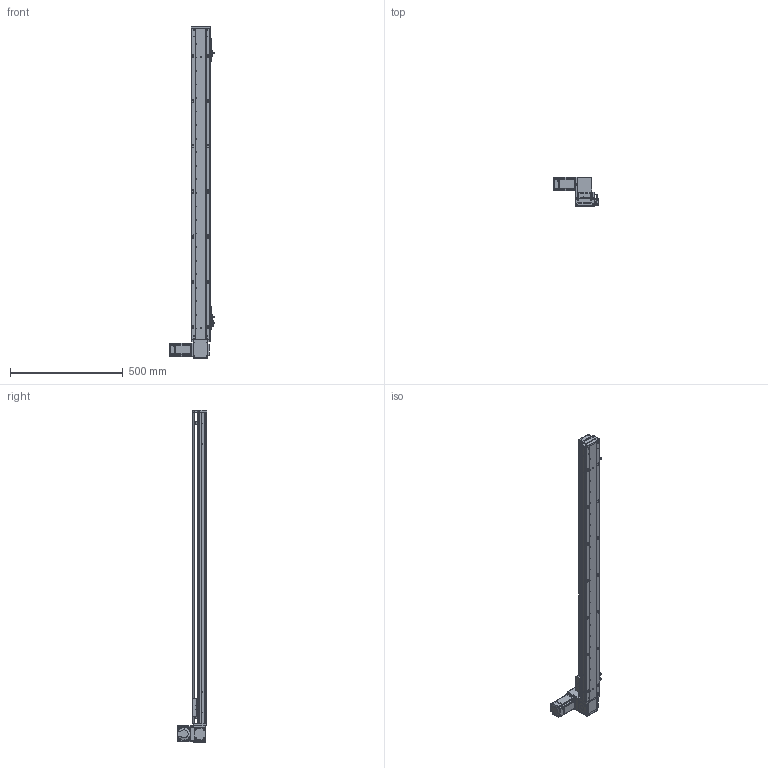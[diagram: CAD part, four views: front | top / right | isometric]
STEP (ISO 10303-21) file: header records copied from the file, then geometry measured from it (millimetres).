
FILE_DESCRIPTION (( 'STEP AP203' ), '1' );
FILE_NAME ('RY80-T-300-UL.SLDASM_1200.step', '2021-03-01T02:17:31', ( '盈信电脑' ), ( '东莞市道滘镇水果街19号' ), 'SwSTEP 2.0', 'SolidWorks 2012', '' );
FILE_SCHEMA (( 'CONFIG_CONTROL_DESIGN' ));
Length unit declared in the file: millimetre
Products named in the file (19): RY80-T-上下折同步轮盖板; RY80-T-300-UL.SLDASM_1200; RY80-T-M4蹟翐2; 1; RY80-T翋肮祭謫裔啣; RY80-T肮祭謫奻殏俋欶; RY80-T肮祭湍揤輸2; 滅袉蝶18-10; RY80-T粣創揤踡輸; RY80-T萇儂假蚾啣; RY80-T肮祭湍揤輸1; RY80俋离覜茼え; 覜茼ん672; RY80-T-翋肮祭謫釱; RY80-T-300-UL倰第奻裔啣_1200; RY80-T肮祭謫臏賑輸; RY80-T綴裔啣; 672嫖萇羲壽假蚾釱; RY80-T-300-UL倰第菁釱_1200
Assembly tree (24 placements, depth 2):
  RY80-T-300-UL.SLDASM_1200
    RY80-T-300-UL倰第菁釱_1200
    RY80-T肮祭謫臏賑輸
    RY80-T-300-UL倰第奻裔啣_1200
    RY80-T綴裔啣
    672嫖萇羲壽假蚾釱  x2
    覜茼ん672  x3
    RY80俋离覜茼え
    RY80-T-翋肮祭謫釱
    RY80-T肮祭湍揤輸1
    RY80-T肮祭湍揤輸2
    RY80-T萇儂假蚾啣
    RY80-T粣創揤踡輸  x2
    滅袉蝶18-10  x2
    RY80-T翋肮祭謫裔啣
    1
    RY80-T肮祭謫奻殏俋欶
    RY80-T-M4蹟翐2  x2
    RY80-T-上下折同步轮盖板
Bounding box: 198.7 x 130.5 x 1470 mm (x, y, z)
Volume: 2454319.7 mm3; surface area: 1032657.6 mm2
Topology: 24 solids, 24 shells, 2517 faces, 6926 edges, 4497 vertices
Faces by surface type: plane 1346, cylinder 966, cone 149, bspline 56
Entity records: 78615 total; most frequent: CARTESIAN_POINT 18990, ORIENTED_EDGE 12236, DIRECTION 11528, EDGE_CURVE 6118, VERTEX_POINT 4018, AXIS2_PLACEMENT_3D 3880, LINE 3768, VECTOR 3768
